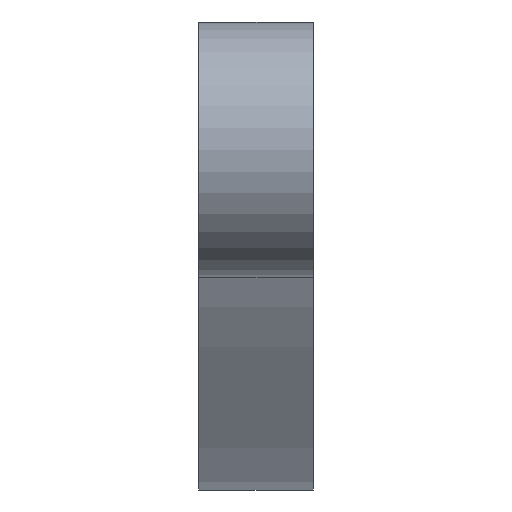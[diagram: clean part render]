
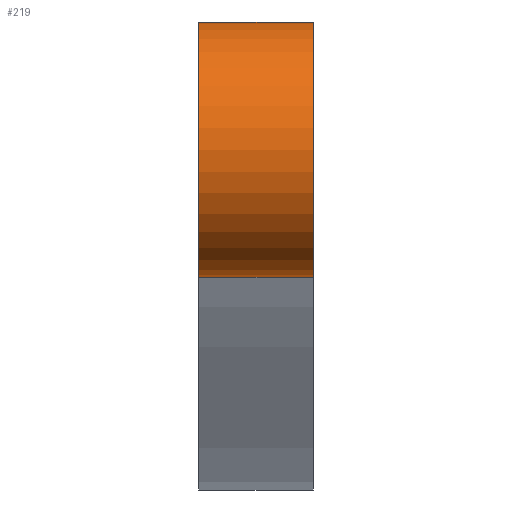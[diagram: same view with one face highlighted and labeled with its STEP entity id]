
A CAD part, left-side view. The second image highlights one B-rep face of the part: STEP entity #219.
In plain terms, the highlighted cylindrical face has radius 5 mm (diameter 10 mm), a partial arc.
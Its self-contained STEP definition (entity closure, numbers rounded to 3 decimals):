
#32=FACE_OUTER_BOUND('',#44,.T.);
#44=EDGE_LOOP('',(#156,#157,#158,#159));
#60=LINE('',#321,#80);
#61=LINE('',#324,#81);
#80=VECTOR('',#267,4.5);
#81=VECTOR('',#270,4.5);
#100=CIRCLE('',#246,5.);
#101=CIRCLE('',#247,5.);
#106=VERTEX_POINT('',#317);
#107=VERTEX_POINT('',#318);
#108=VERTEX_POINT('',#320);
#109=VERTEX_POINT('',#322);
#126=EDGE_CURVE('',#106,#107,#100,.T.);
#127=EDGE_CURVE('',#108,#107,#60,.T.);
#128=EDGE_CURVE('',#109,#108,#101,.T.);
#129=EDGE_CURVE('',#109,#106,#61,.T.);
#156=ORIENTED_EDGE('',*,*,#126,.T.);
#157=ORIENTED_EDGE('',*,*,#127,.F.);
#158=ORIENTED_EDGE('',*,*,#128,.F.);
#159=ORIENTED_EDGE('',*,*,#129,.T.);
#216=CYLINDRICAL_SURFACE('',#245,5.);
#219=ADVANCED_FACE('',(#32),#216,.T.);
#245=AXIS2_PLACEMENT_3D('',#316,#263,#264);
#246=AXIS2_PLACEMENT_3D('',#319,#265,#266);
#247=AXIS2_PLACEMENT_3D('',#323,#268,#269);
#263=DIRECTION('center_axis',(0.,-1.,0.));
#264=DIRECTION('ref_axis',(0.,0.,-1.));
#265=DIRECTION('center_axis',(0.,1.,0.));
#266=DIRECTION('ref_axis',(0.,0.,1.));
#267=DIRECTION('',(0.,-1.,0.));
#268=DIRECTION('center_axis',(0.,1.,0.));
#269=DIRECTION('ref_axis',(0.,0.,1.));
#270=DIRECTION('',(0.,-1.,0.));
#316=CARTESIAN_POINT('Origin',(0.,4.5,0.));
#317=CARTESIAN_POINT('',(0.,0.,-5.));
#318=CARTESIAN_POINT('',(0.,0.,5.));
#319=CARTESIAN_POINT('Origin',(0.,0.,0.));
#320=CARTESIAN_POINT('',(0.,4.5,5.));
#321=CARTESIAN_POINT('',(0.,4.5,5.));
#322=CARTESIAN_POINT('',(0.,4.5,-5.));
#323=CARTESIAN_POINT('Origin',(0.,4.5,0.));
#324=CARTESIAN_POINT('',(0.,4.5,-5.));
